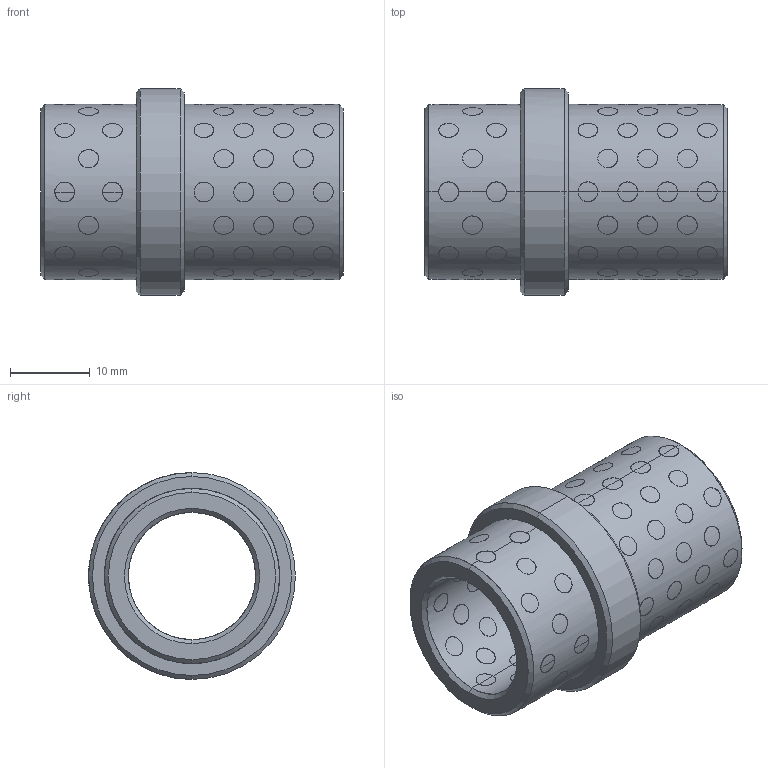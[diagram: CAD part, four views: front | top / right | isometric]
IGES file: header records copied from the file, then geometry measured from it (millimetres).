
Start section: START RECORD GO HERE.
Global section: file name: G4021626.igs; native system: DASSAULT SYSTEMES CATIA V5 R20 - www.3ds.com; preprocessor: CATIA Version 5 Release 20 ; author: r.borello; organization: CFTORINO; date: 20190624.144102; units: millimetre
Bounding box: 38 x 26 x 26 mm (x, y, z)
Surface area: 8919.1 mm2 (no closed solid volume)
Topology: 0 solids, 0 shells, 528 faces, 2304 edges, 2304 vertices
Faces by surface type: revolution 524, plane 4
